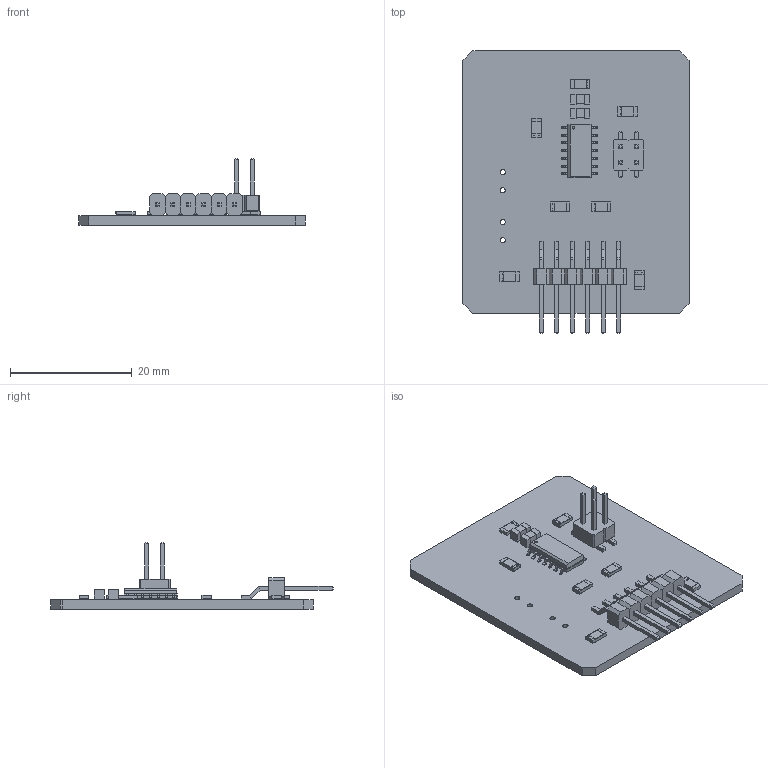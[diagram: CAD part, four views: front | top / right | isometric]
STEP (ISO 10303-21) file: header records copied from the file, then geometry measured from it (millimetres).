
FILE_DESCRIPTION(('KiCad electronic assembly'),'2;1');
FILE_NAME('t1614vibroDLight.step','2021-12-08T18:43:00',('An Author'),( 'A Company'),'Open CASCADE STEP processor 6.9', 'KiCad to STEP converter','Unknown');
FILE_SCHEMA(('AUTOMOTIVE_DESIGN { 1 0 10303 214 1 1 1 1 }'));
Length unit declared in the file: millimetre
Products named in the file (12): Open CASCADE STEP translator 6.9 1; C_1206; COMPOUND; PinHeader_2x02_P2.54mm_Vertical_SMD; SOLID; Header_SMD_01x06_P2.54mm_Horizontal_Male; R_1206; SOIC-14_3.9x8.7mm_P1.27mm
Assembly tree (18 placements, depth 3):
  Open CASCADE STEP translator 6.9 1
    C_1206  x2
      COMPOUND
    PinHeader_2x02_P2.54mm_Vertical_SMD
      SOLID
    Header_SMD_01x06_P2.54mm_Horizontal_Male
      COMPOUND
    R_1206  x7
      COMPOUND
    SOIC-14_3.9x8.7mm_P1.27mm
      COMPOUND
    COMPOUND
Bounding box: 37.2 x 46.53 x 10.95 mm (x, y, z)
Volume: 2901.6 mm3; surface area: 4592.2 mm2
Topology: 50 solids, 50 shells, 789 faces, 1828 edges, 1148 vertices
Faces by surface type: plane 711, cylinder 66, revolution 12
Full cylindrical faces by diameter (mm): 0.4 x2, 0.85 x4
Entity records: 37089 total; most frequent: CARTESIAN_POINT 6288, DIRECTION 5643, LINE 3996, VECTOR 3996, ORIENTED_EDGE 2864, PCURVE 2864, DEFINITIONAL_REPRESENTATION 2864, EDGE_CURVE 1432
